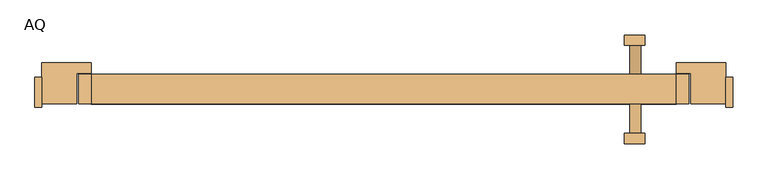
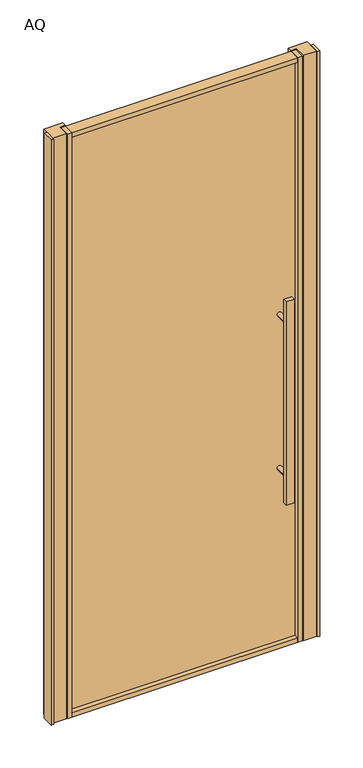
"""IFC4 building model written with IfcOpenShell, lengths in millimetres: door geometry, Mobiliário_Mobiliário de Escritório_Porta de Giro Emoldurada_Marelli : AQ."""

from ifc_helpers import new_model, si_unit, point, frame, frame_2d, origin, origin_with_axes, place, context, project, spatial, polyline, circle_curve, trimmed, segment, composite_curve, outline, extrude, source, transform, mapped, element, save


def aq_f80e5219(model_context):
    return source(origin(), model_context, "Body", "SweptSolid", [
        extrude(outline(polyline([(-490.0, -21.5), (-500.0, -21.5), (-500.0, 21.5), (-490.0, 21.5), (-490.0, -21.5)])), origin_with_axes(), (0.0, 0.0, 1.0), 2300.0),
        extrude(outline(polyline([(490.0, -21.5), (490.0, 21.5), (500.0, 21.5), (500.0, -21.5), (490.0, -21.5)])), origin_with_axes(), (0.0, 0.0, 1.0), 2300.0),
        extrude(outline(polyline([(-490.0, 42.5), (-419.0, 42.5), (-419.0, 27.0), (-440.0, 27.0), (-440.0, -16.5), (-490.0, -16.5), (-490.0, 42.5)])), origin_with_axes(), (0.0, 0.0, 1.0), 2300.0),
        extrude(outline(polyline([(490.0, 42.5), (490.0, -16.5), (440.0, -16.5), (440.0, 27.0), (419.0, 27.0), (419.0, 42.5), (490.0, 42.5)])), origin_with_axes(), (0.0, 0.0, 1.0), 2300.0),
        extrude(outline(polyline([(-437.5, -16.5), (-437.5, 25.5), (-419.5, 25.5), (-419.5, -16.5), (-437.5, -16.5)])), frame((0.0, 0.0, 0.2), z_axis=(0.0, 0.0, 1.0), x_axis=(1.0, 0.0, 0.0)), (0.0, 0.0, 1.0), 2297.8),
        extrude(outline(polyline([(437.5, -16.5), (419.5, -16.5), (419.5, 25.5), (437.5, 25.5), (437.5, -16.5)])), frame((0.0, 0.0, 0.2), z_axis=(0.0, 0.0, 1.0), x_axis=(1.0, 0.0, 0.0)), (0.0, 0.0, 1.0), 2297.8),
        extrude(outline(polyline([(419.5, 8.5), (419.5, 0.5), (-419.5, 0.5), (-419.5, 8.5), (419.5, 8.5)])), frame((0.0, 0.0, 18.0), z_axis=(0.0, 0.0, 1.0), x_axis=(1.0, 0.0, 0.0)), (0.0, 0.0, 1.0), 2262.0),
        extrude(outline(polyline([(344.5, 82.2), (374.5, 82.2), (374.5, 67.2), (344.5, 67.2), (344.5, 82.2)])), frame((0.0, 0.0, 600.0), z_axis=(0.0, 0.0, 1.0), x_axis=(1.0, 0.0, 0.0)), (0.0, 0.0, 1.0), 800.0),
        extrude(outline(composite_curve([segment(trimmed(circle_curve(frame_2d((698.0, 360.6278633)), 8.0), [point((698.0, 352.6278633))], [point((698.0, 368.6278633))], False, "CARTESIAN"), True, "CONTINUOUS"), segment(trimmed(circle_curve(frame_2d((698.0, 360.6278633)), 8.0), [point((698.0, 368.6278633))], [point((698.0, 352.6278633))], False, "CARTESIAN"), True, "CONTINUOUS")], self_intersect=False)), frame((0.0, -58.2, 0.0), z_axis=(0.0, 1.0, 0.0), x_axis=(0.0, 0.0, 1.0)), (0.0, 0.0, 1.0), 58.7),
        extrude(outline(composite_curve([segment(trimmed(circle_curve(frame_2d((1302.0, 360.6278633)), 8.0), [point((1302.0, 352.6278633))], [point((1302.0, 368.6278633))], False, "CARTESIAN"), True, "CONTINUOUS"), segment(trimmed(circle_curve(frame_2d((1302.0, 360.6278633)), 8.0), [point((1302.0, 368.6278633))], [point((1302.0, 352.6278633))], False, "CARTESIAN"), True, "CONTINUOUS")], self_intersect=False)), frame((0.0, -58.2, 0.0), z_axis=(0.0, 1.0, 0.0), x_axis=(0.0, 0.0, 1.0)), (0.0, 0.0, 1.0), 58.7),
        extrude(outline(composite_curve([segment(trimmed(circle_curve(frame_2d((698.0, 360.6278633)), 8.0), [point((698.0, 352.6278633))], [point((698.0, 368.6278633))], False, "CARTESIAN"), True, "CONTINUOUS"), segment(trimmed(circle_curve(frame_2d((698.0, 360.6278633)), 8.0), [point((698.0, 368.6278633))], [point((698.0, 352.6278633))], False, "CARTESIAN"), True, "CONTINUOUS")], self_intersect=False)), frame((0.0, 8.5, 0.0), z_axis=(0.0, 1.0, 0.0), x_axis=(0.0, 0.0, 1.0)), (0.0, 0.0, 1.0), 58.7),
        extrude(outline(composite_curve([segment(trimmed(circle_curve(frame_2d((1302.0, 360.6278633)), 8.0), [point((1302.0, 352.6278633))], [point((1302.0, 368.6278633))], False, "CARTESIAN"), True, "CONTINUOUS"), segment(trimmed(circle_curve(frame_2d((1302.0, 360.6278633)), 8.0), [point((1302.0, 368.6278633))], [point((1302.0, 352.6278633))], False, "CARTESIAN"), True, "CONTINUOUS")], self_intersect=False)), frame((0.0, 8.5, 0.0), z_axis=(0.0, 1.0, 0.0), x_axis=(0.0, 0.0, 1.0)), (0.0, 0.0, 1.0), 58.7),
        extrude(outline(polyline([(344.5, -73.2), (344.5, -58.2), (374.5, -58.2), (374.5, -73.2), (344.5, -73.2)])), frame((0.0, 0.0, 600.0), z_axis=(0.0, 0.0, 1.0), x_axis=(1.0, 0.0, 0.0)), (0.0, 0.0, 1.0), 800.0),
        extrude(outline(polyline([(419.5, -16.5), (-419.5, -16.5), (-419.5, 25.5), (419.5, 25.5), (419.5, -16.5)])), origin_with_axes(), (0.0, 0.0, 1.0), 18.0),
        extrude(outline(polyline([(419.5, -16.5), (-419.5, -16.5), (-419.5, 25.5), (419.5, 25.5), (419.5, -16.5)])), frame((0.0, 0.0, 2280.0), z_axis=(0.0, 0.0, 1.0), x_axis=(1.0, 0.0, 0.0)), (0.0, 0.0, 1.0), 18.0),
    ])


if __name__ == "__main__":
    model = new_model("IFC4")
    model_context = context("Model", 3, world=origin())
    ifc_project = project(units=[si_unit("LENGTHUNIT", "METRE", prefix="MILLI")], contexts=[model_context])
    site = spatial("IfcSite", under=ifc_project)
    building = spatial("IfcBuilding", under=site)
    placement = place(None, origin())
    aq_shape = aq_f80e5219(model_context)
    element("IfcDoor", 1, ObjectType="Mobiliário_Mobiliário de Escritório_Porta de Giro Emoldurada_Marelli : AQ", at=placement, inside=building, context=model_context, shape_type="MappedRepresentation", body=[
        mapped(aq_shape, transform((0.0, 0.0, 0.0), x_axis=(1.0, 0.0, 0.0), y_axis=(0.0, 1.0, 0.0), z_axis=(0.0, 0.0, 1.0))),
    ])
    save(model, "model.ifc")
